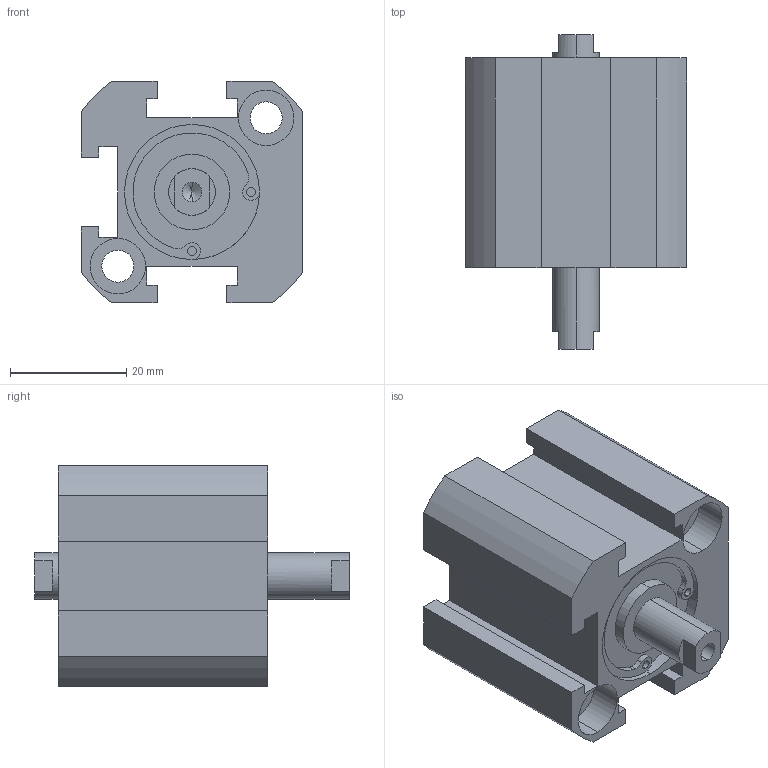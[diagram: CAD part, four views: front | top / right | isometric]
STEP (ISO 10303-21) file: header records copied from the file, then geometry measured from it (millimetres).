
FILE_DESCRIPTION (( 'STEP AP203' ), '1' );
FILE_NAME ('XG#7-20-10.STEP', '2016-05-24T01:57:14', ( '' ), ( '' ), 'SwSTEP 2.0', 'SolidWorks 2014', '' );
FILE_SCHEMA (( 'CONFIG_CONTROL_DESIGN' ));
Length unit declared in the file: millimetre
Products named in the file (1): XG#7-20-10
Bounding box: 38 x 54 x 38 mm (x, y, z)
Volume: 37548.8 mm3; surface area: 12274.1 mm2
Topology: 1 solids, 1 shells, 120 faces, 302 edges, 194 vertices
Faces by surface type: cylinder 58, plane 54, cone 8
Entity records: 3661 total; most frequent: DIRECTION 662, CARTESIAN_POINT 609, ORIENTED_EDGE 588, EDGE_CURVE 294, AXIS2_PLACEMENT_3D 247, VERTEX_POINT 194, VECTOR 168, LINE 168
